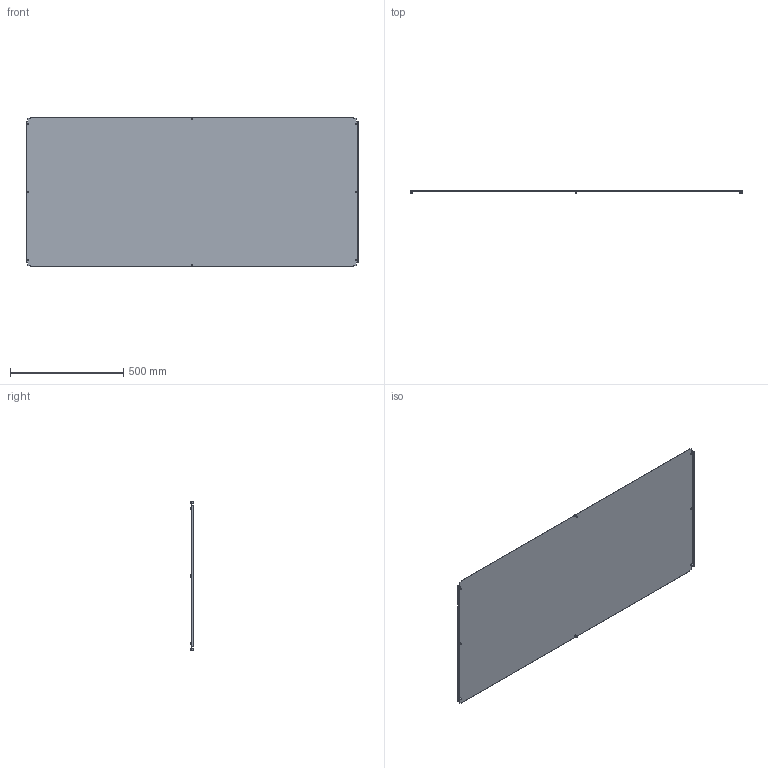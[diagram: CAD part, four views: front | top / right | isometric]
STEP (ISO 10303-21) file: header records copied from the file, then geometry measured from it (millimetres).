
FILE_DESCRIPTION (( 'STEP AP203' ), '1' );
FILE_NAME ('R5N1BP168.STEP', '2025-02-21T14:04:00', ( '' ), ( '' ), 'SwSTEP 2.0', 'SolidWorks 2022', '' );
FILE_SCHEMA (( 'CONFIG_CONTROL_DESIGN' ));
Length unit declared in the file: millimetre
Products named in the file (3): R5N1BP168; RB.1923.00.00.0_-37; M5x12 DIN 7500 C Torx Zinc_stright
Assembly tree (9 placements, depth 2):
  R5N1BP168
    RB.1923.00.00.0_-37
    M5x12 DIN 7500 C Torx Zinc_stright  x8
Bounding box: 1468 x 15.56 x 662 mm (x, y, z)
Volume: 1473563.3 mm3; surface area: 1970327 mm2
Topology: 9 solids, 9 shells, 206 faces, 468 edges, 288 vertices
Faces by surface type: plane 126, cylinder 32, torus 16, cone 16, sphere 8, bspline 8
Full cylindrical faces by diameter (mm): 5 x8, 9.5 x8
Entity records: 3641 total; most frequent: CARTESIAN_POINT 724, ORIENTED_EDGE 496, DIRECTION 496, EDGE_CURVE 248, LINE 196, VECTOR 196, VERTEX_POINT 166, AXIS2_PLACEMENT_3D 150
